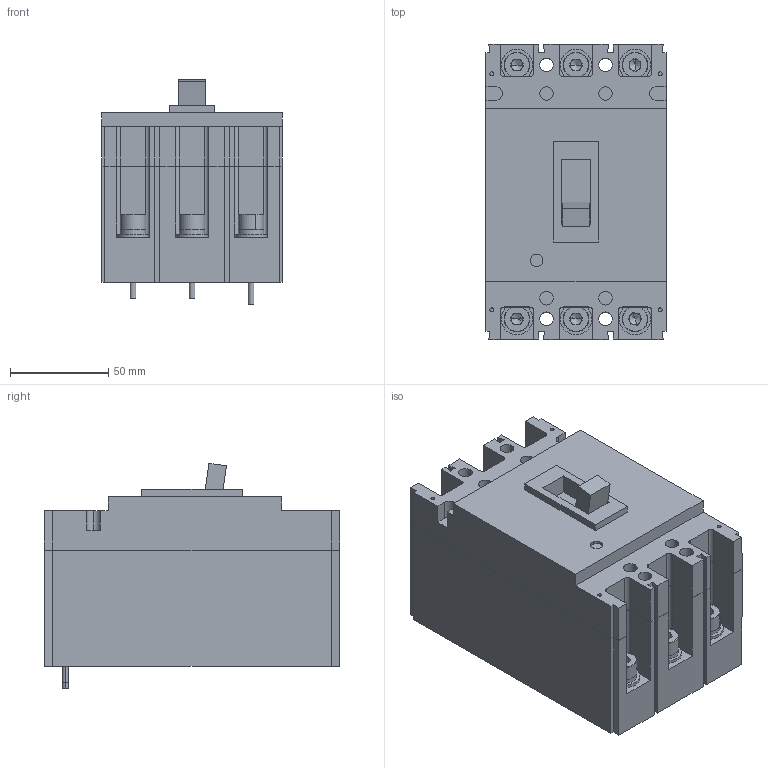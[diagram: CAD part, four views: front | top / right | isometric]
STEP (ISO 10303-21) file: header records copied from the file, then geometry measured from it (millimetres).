
FILE_DESCRIPTION (( 'STEP AP203' ), '1' );
FILE_NAME ('100-3M剿繚ん.STEP', '2019-04-24T08:49:08', ( 'User' ), ( 'china' ), 'SwSTEP 2.0', 'SolidWorks 2011', '' );
FILE_SCHEMA (( 'CONFIG_CONTROL_DESIGN' ));
Length unit declared in the file: millimetre
Products named in the file (8): 100-3M剿繚ん; plain washers-n series-grade a gb_GB_FASTENER_WASHER_PWNA 8; spring lock washers--normal type gb_GB_FASTENER_WASHER_SW 8; hexagon socket head cap screws gb_GB_FASTENER_SCREWS_HSHCS M8X20-C; 絳盄1ㄗ酴ㄘ; 絳盄1ㄗ蟯ㄘ; 絳盄1ㄗ綻ㄘ
Assembly tree (22 placements, depth 2):
  100-3M剿繚ん
    spring lock washers--normal type gb_GB_FASTENER_WASHER_SW 8  x6
    plain washers-n series-grade a gb_GB_FASTENER_WASHER_PWNA 8  x6
    100-3M剿繚ん
    hexagon socket head cap screws gb_GB_FASTENER_SCREWS_HSHCS M8X20-C  x6
    絳盄1ㄗ酴ㄘ
    絳盄1ㄗ蟯ㄘ
    絳盄1ㄗ綻ㄘ
Bounding box: 91.6 x 150 x 114.5 mm (x, y, z)
Volume: 1036826.5 mm3; surface area: 131560.8 mm2
Topology: 23 solids, 23 shells, 510 faces, 1263 edges, 816 vertices
Faces by surface type: plane 301, cylinder 173, cone 24, torus 12
Entity records: 10791 total; most frequent: DIRECTION 1677, CARTESIAN_POINT 1674, ORIENTED_EDGE 1602, EDGE_CURVE 801, VECTOR 577, LINE 577, AXIS2_PLACEMENT_3D 550, VERTEX_POINT 531
